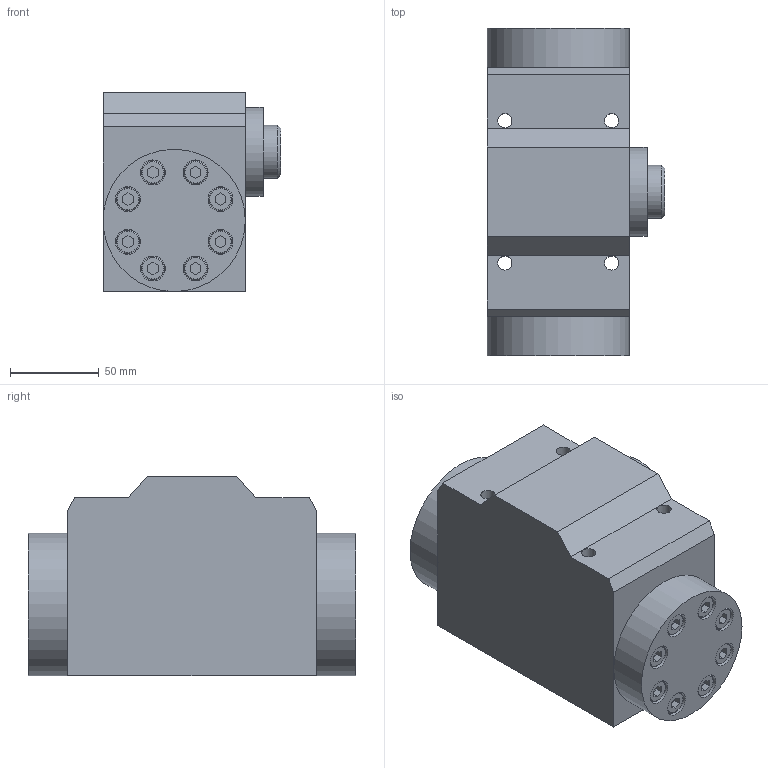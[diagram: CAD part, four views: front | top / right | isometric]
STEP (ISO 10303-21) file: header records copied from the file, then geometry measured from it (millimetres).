
FILE_DESCRIPTION(/* description */ (''),/* implementation_level */ '2;1');
FILE_NAME(/* name */ '2-1.prt.stp',/* time_stamp */ '2023-05-03T15:28:51+08:00',/* author */ (''),/* organization */ (''),/* preprocessor_version */ 'ST-DEVELOPER v16.7',/* originating_system */ 'SIEMENS PLM Software NX 12.0',/* authorisation */ '');
FILE_SCHEMA (('AUTOMOTIVE_DESIGN { 1 0 10303 214 3 1 1 1 }'));
Length unit declared in the file: millimetre
Products named in the file (1): 2-1
Bounding box: 100 x 184 x 112 mm (x, y, z)
Volume: 1381834.5 mm3; surface area: 175159.3 mm2
Topology: 29 solids, 29 shells, 649 faces, 1588 edges, 1052 vertices
Faces by surface type: plane 387, cylinder 186, cone 52, torus 24
Full cylindrical faces by diameter (mm): 3.3 x8, 4 x8, 4.5 x8, 6.8 x16, 7 x8, 8 x28, 9 x16, 10 x3, 11 x4, 13 x16, 14 x18, 18 x1, 30 x1, 50 x1, 80 x2
Entity records: 17223 total; most frequent: DIRECTION 2988, CARTESIAN_POINT 2817, ORIENTED_EDGE 2438, EDGE_CURVE 1219, AXIS2_PLACEMENT_3D 1119, EDGE_LOOP 1046, VERTEX_POINT 948, LINE 750
